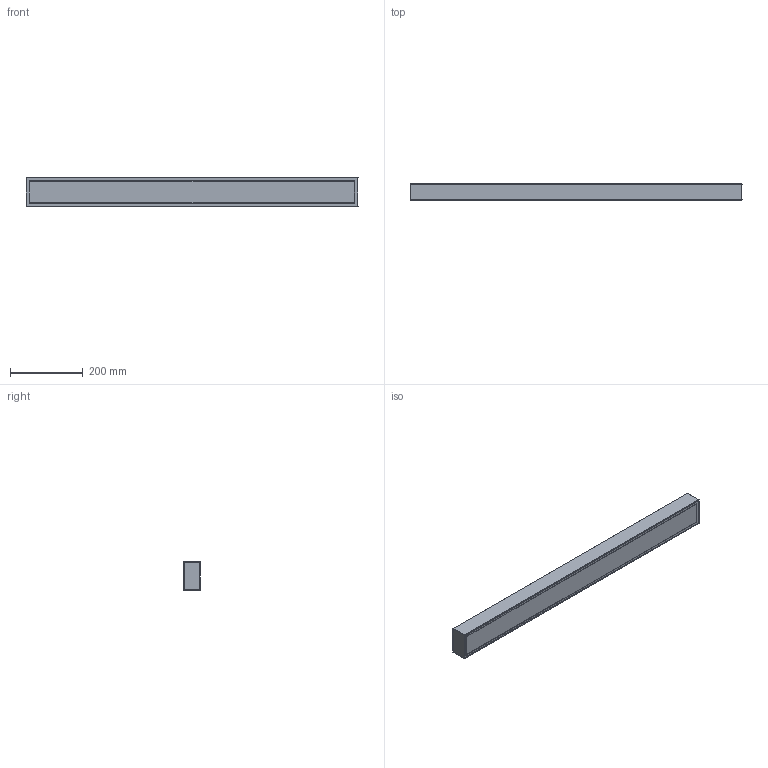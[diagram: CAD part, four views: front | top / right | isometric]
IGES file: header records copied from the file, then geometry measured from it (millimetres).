
Start section: SolidWorks IGES file using analytic representation for surfaces
Global section: file name: Z:\Modele 3D_WWW\_KOLEKCJE_WWW\KAGERA-LED-L-9502\KAGERA-LED-L-9502.IGS; native system: SolidWorks 2020; preprocessor: SolidWorks 2020; author: gabriela.tworek; date: 210226.100545; units: millimetre
Bounding box: 910 x 45 x 80 mm (x, y, z)
Surface area: 534115.4 mm2 (no closed solid volume)
Topology: 0 solids, 0 shells, 58 faces, 312 edges, 304 vertices
Faces by surface type: bspline 30, revolution 28
